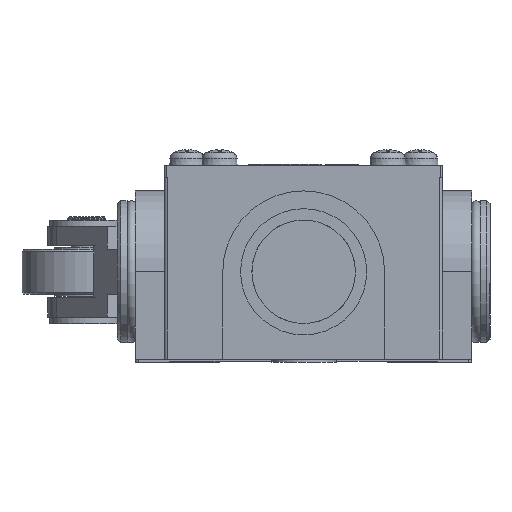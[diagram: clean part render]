
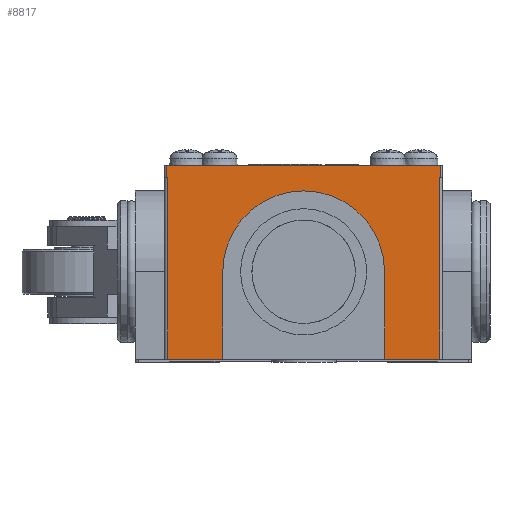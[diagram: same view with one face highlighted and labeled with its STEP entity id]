
A CAD part, front view. The second image highlights one B-rep face of the part: STEP entity #8817.
In plain terms, the highlighted planar face has unit normal (0, -1, 0).
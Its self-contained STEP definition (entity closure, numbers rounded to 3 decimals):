
#5855=CARTESIAN_POINT('',(-21.0,0.,0.0));
#5856=VERTEX_POINT('',#5855);
#5864=CARTESIAN_POINT('',(-21.,0.,28.1));
#5865=VERTEX_POINT('',#5864);
#5866=CARTESIAN_POINT('',(-21.,0.,0.));
#5867=DIRECTION('',(0.0,0.0,1.0));
#5868=VECTOR('',#5867,28.1);
#5869=LINE('',#5866,#5868);
#5870=EDGE_CURVE('',#5856,#5865,#5869,.T.);
#5887=CARTESIAN_POINT('',(21.0,0.,0.0));
#5888=VERTEX_POINT('',#5887);
#5889=CARTESIAN_POINT('',(21.,0.,28.1));
#5890=VERTEX_POINT('',#5889);
#5891=CARTESIAN_POINT('',(21.,0.,0.));
#5892=DIRECTION('',(0.0,0.0,1.0));
#5893=VECTOR('',#5892,28.1);
#5894=LINE('',#5891,#5893);
#5895=EDGE_CURVE('',#5888,#5890,#5894,.T.);
#7285=CARTESIAN_POINT('',(12.5,0.,0.));
#7286=VERTEX_POINT('',#7285);
#7287=CARTESIAN_POINT('',(12.5,0.,0.0));
#7288=DIRECTION('',(1.0,0.0,0.0));
#7289=VECTOR('',#7288,8.5);
#7290=LINE('',#7287,#7289);
#7291=EDGE_CURVE('',#7286,#5888,#7290,.T.);
#7300=CARTESIAN_POINT('',(-12.5,0.,0.));
#7301=VERTEX_POINT('',#7300);
#7308=CARTESIAN_POINT('',(-21.0,0.,0.0));
#7309=DIRECTION('',(1.0,0.0,0.0));
#7310=VECTOR('',#7309,8.5);
#7311=LINE('',#7308,#7310);
#7312=EDGE_CURVE('',#5856,#7301,#7311,.T.);
#8745=CARTESIAN_POINT('',(21.5,0.,0.0));
#8746=DIRECTION('',(0.0,-1.0,0.0));
#8747=DIRECTION('',(0.0,0.0,-1.0));
#8748=AXIS2_PLACEMENT_3D('',#8745,#8746,#8747);
#8749=PLANE('',#8748);
#8750=CARTESIAN_POINT('',(-12.5,0.,13.5));
#8751=VERTEX_POINT('',#8750);
#8752=CARTESIAN_POINT('',(-12.5,0.,0.0));
#8753=DIRECTION('',(0.0,0.0,1.0));
#8754=VECTOR('',#8753,13.5);
#8755=LINE('',#8752,#8754);
#8756=EDGE_CURVE('',#7301,#8751,#8755,.T.);
#8757=ORIENTED_EDGE('',*,*,#8756,.T.);
#8758=CARTESIAN_POINT('',(12.5,0.,13.5));
#8759=VERTEX_POINT('',#8758);
#8760=CARTESIAN_POINT('',(0.,0.,13.5));
#8761=DIRECTION('',(0.0,1.0,0.0));
#8762=DIRECTION('',(1.0,0.0,0.0));
#8763=AXIS2_PLACEMENT_3D('',#8760,#8761,#8762);
#8764=CIRCLE('',#8763,12.5);
#8765=EDGE_CURVE('',#8751,#8759,#8764,.T.);
#8766=ORIENTED_EDGE('',*,*,#8765,.T.);
#8767=CARTESIAN_POINT('',(12.5,0.,13.5));
#8768=DIRECTION('',(0.0,0.0,-1.0));
#8769=VECTOR('',#8768,13.5);
#8770=LINE('',#8767,#8769);
#8771=EDGE_CURVE('',#8759,#7286,#8770,.T.);
#8772=ORIENTED_EDGE('',*,*,#8771,.T.);
#8773=ORIENTED_EDGE('',*,*,#7291,.T.);
#8774=ORIENTED_EDGE('',*,*,#5895,.T.);
#8775=CARTESIAN_POINT('',(21.2,0.,28.1));
#8776=VERTEX_POINT('',#8775);
#8777=CARTESIAN_POINT('',(21.,0.,28.1));
#8778=DIRECTION('',(1.0,0.0,0.0));
#8779=VECTOR('',#8778,0.2);
#8780=LINE('',#8777,#8779);
#8781=EDGE_CURVE('',#5890,#8776,#8780,.T.);
#8782=ORIENTED_EDGE('',*,*,#8781,.T.);
#8783=CARTESIAN_POINT('',(21.2,0.,30.0));
#8784=VERTEX_POINT('',#8783);
#8785=CARTESIAN_POINT('',(21.2,0.,28.1));
#8786=DIRECTION('',(0.0,0.0,1.0));
#8787=VECTOR('',#8786,1.9);
#8788=LINE('',#8785,#8787);
#8789=EDGE_CURVE('',#8776,#8784,#8788,.T.);
#8790=ORIENTED_EDGE('',*,*,#8789,.T.);
#8791=CARTESIAN_POINT('',(-21.2,0.,30.));
#8792=VERTEX_POINT('',#8791);
#8793=CARTESIAN_POINT('',(21.2,0.,30.0));
#8794=DIRECTION('',(-1.0,0.0,0.0));
#8795=VECTOR('',#8794,42.4);
#8796=LINE('',#8793,#8795);
#8797=EDGE_CURVE('',#8784,#8792,#8796,.T.);
#8798=ORIENTED_EDGE('',*,*,#8797,.T.);
#8799=CARTESIAN_POINT('',(-21.2,0.,28.1));
#8800=VERTEX_POINT('',#8799);
#8801=CARTESIAN_POINT('',(-21.2,0.,28.1));
#8802=DIRECTION('',(0.0,0.0,1.0));
#8803=VECTOR('',#8802,1.9);
#8804=LINE('',#8801,#8803);
#8805=EDGE_CURVE('',#8800,#8792,#8804,.T.);
#8806=ORIENTED_EDGE('',*,*,#8805,.F.);
#8807=CARTESIAN_POINT('',(-21.2,0.,28.1));
#8808=DIRECTION('',(1.0,0.0,0.0));
#8809=VECTOR('',#8808,0.2);
#8810=LINE('',#8807,#8809);
#8811=EDGE_CURVE('',#8800,#5865,#8810,.T.);
#8812=ORIENTED_EDGE('',*,*,#8811,.T.);
#8813=ORIENTED_EDGE('',*,*,#5870,.F.);
#8814=ORIENTED_EDGE('',*,*,#7312,.T.);
#8815=EDGE_LOOP('',(#8757,#8766,#8772,#8773,#8774,#8782,#8790,#8798,#8806,#8812,#8813,#8814));
#8816=FACE_OUTER_BOUND('',#8815,.T.);
#8817=ADVANCED_FACE('',(#8816),#8749,.T.);
